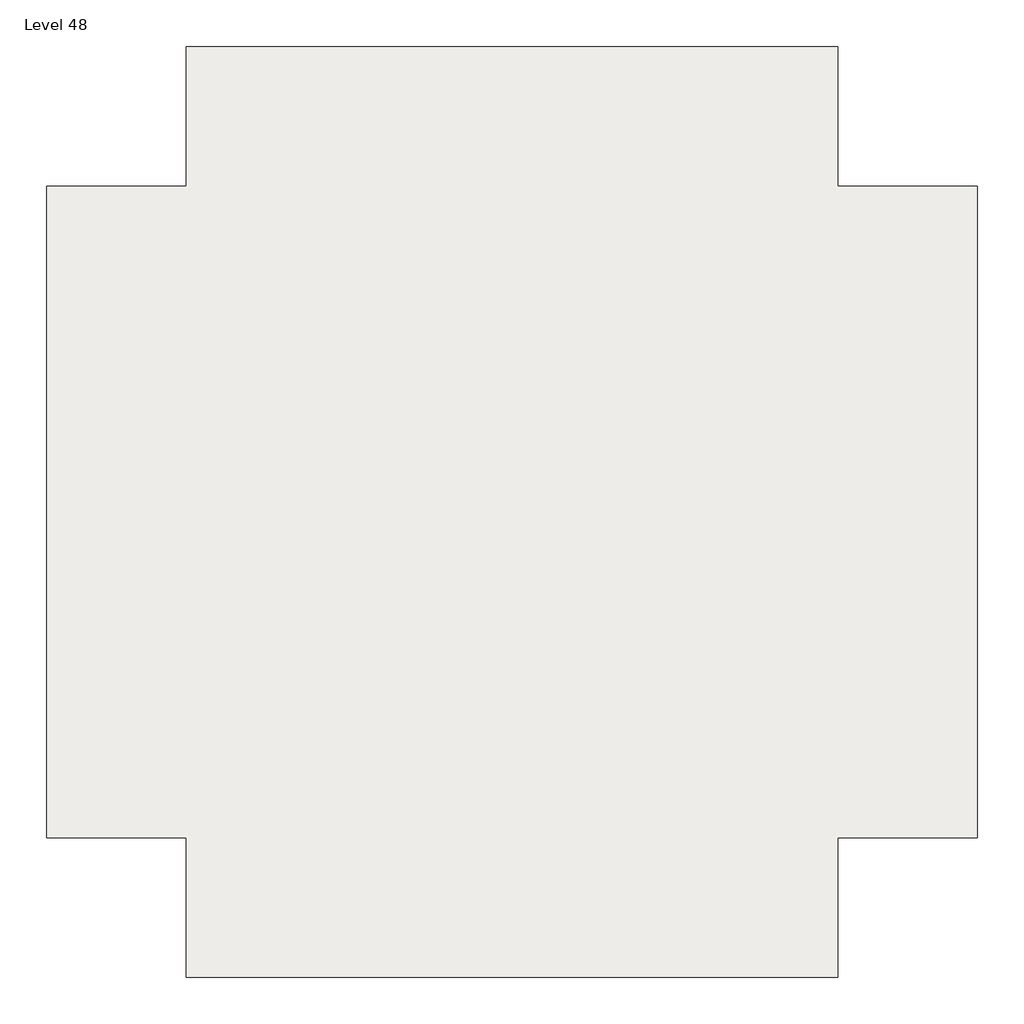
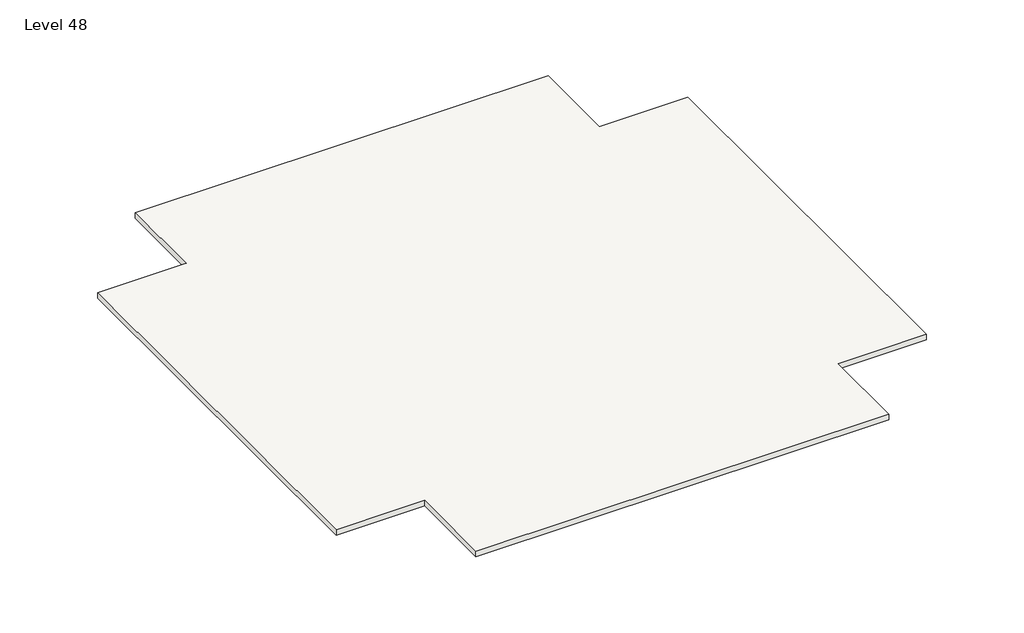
# One storey: 2 slabs.
"""IFC4 building model written with IfcOpenShell, lengths in millimetres."""

import ifcopenshell
import ifcopenshell.guid

model = None  # the IFC model being written
_history = None  # IfcOwnerHistory: only IFC2X3 demands one
_inside = {}  # id of a spatial element -> (the spatial element, [elements in it])
_under = {}  # id of a project, library or spatial element -> (it, [spatial elements below it])
_declared = {}  # id of a project -> (the project, [libraries it declares])
_typed = {}  # id of a type object -> (the type object, [elements of that type])
_made_of = {}  # id of a material, layer set ... -> (it, [elements and type objects made of it])


def new_model(schema):
    """Start an empty IFC model of exactly this schema.

    Asked for "IFC4X3", IfcOpenShell would pick the latest addendum, in which some entities
    have other attributes; the version numbers below select the first issue.
    IFC2X3 requires an IfcOwnerHistory on every rooted entity: one is made here for all.
    """
    global model, _history
    if schema == "IFC4X3":
        model = ifcopenshell.file(schema_version=(4, 3, 0, 0))
    else:
        model = ifcopenshell.file(schema=schema)
    _inside.clear()
    _under.clear()
    _declared.clear()
    _typed.clear()
    _made_of.clear()
    _history = None
    if model.schema == "IFC2X3":
        org = make("IfcOrganization", Name="unknown")
        user = make(
            "IfcPersonAndOrganization",
            ThePerson=make("IfcPerson", FamilyName="unknown"),
            TheOrganization=org,
        )
        app = make(
            "IfcApplication",
            ApplicationDeveloper=org,
            Version="unknown",
            ApplicationFullName="unknown",
            ApplicationIdentifier="unknown",
        )
        _history = make(
            "IfcOwnerHistory",
            OwningUser=user,
            OwningApplication=app,
            ChangeAction="ADDED",
            CreationDate=0,
        )
    return model


def make(cls, **values):
    """One entity of the class cls with the attributes given. An attribute that is None is left unset."""
    return model.create_entity(
        cls, **{name: value for name, value in values.items() if value is not None}
    )


def rooted(cls, **values):
    """An entity with a GlobalId (a new one), such as an element, a storey or a relation."""
    return make(cls, GlobalId=ifcopenshell.guid.new(), OwnerHistory=_history, **values)


def si_unit(unit_type, name, prefix=None):
    """IfcSIUnit, for example si_unit("LENGTHUNIT", "METRE", prefix="MILLI")."""
    return make("IfcSIUnit", UnitType=unit_type, Prefix=prefix, Name=name)


def assignment(units):
    """IfcUnitAssignment: the units of a project."""
    return None if units is None else make("IfcUnitAssignment", Units=units)


def point(xyz):
    """IfcCartesianPoint."""
    return None if xyz is None else make("IfcCartesianPoint", Coordinates=xyz)


def direction(xyz):
    """IfcDirection."""
    return None if xyz is None else make("IfcDirection", DirectionRatios=xyz)


def frame(location, z_axis=None, x_axis=None):
    """IfcAxis2Placement3D, a coordinate frame: its origin and axes. An axis left out is left unset."""
    return make(
        "IfcAxis2Placement3D",
        Location=point(location),
        Axis=direction(z_axis),
        RefDirection=direction(x_axis),
    )


def origin():
    """The frame at (0, 0, 0) with its axes left unset."""
    return frame((0.0, 0.0, 0.0))


def place(relative_to, where):
    """IfcLocalPlacement: puts the frame where relative to a parent placement (None: the world)."""
    return make(
        "IfcLocalPlacement", PlacementRelTo=relative_to, RelativePlacement=where
    )


def context(
    kind, dimensions, precision=None, world=None, true_north=None, identifier=None
):
    """IfcGeometricRepresentationContext, for example the 3D "Model" context."""
    return make(
        "IfcGeometricRepresentationContext",
        ContextIdentifier=identifier,
        ContextType=kind,
        CoordinateSpaceDimension=dimensions,
        Precision=precision,
        WorldCoordinateSystem=world,
        TrueNorth=true_north,
    )


def project(units=None, contexts=None):
    """IfcProject with its units and contexts."""
    return rooted(
        "IfcProject",
        Name="project",
        RepresentationContexts=contexts,
        UnitsInContext=assignment(units),
    )


def spatial(cls, under=None, at=None, **own):
    """A site, building, storey or space (cls), placed at a placement, below another one or the project."""
    s = rooted(cls, ObjectPlacement=at, **own)
    if under is not None:
        _under.setdefault(under.id(), (under, []))[1].append(s)
    return s


def polyline(points):
    """IfcPolyline through the points."""
    return make("IfcPolyline", Points=[point(p) for p in points])


def outline(outer, holes=None, kind="AREA"):
    """IfcArbitraryClosedProfileDef: a profile drawn as a closed curve; with holes, ...WithVoids."""
    if holes is None:
        return make("IfcArbitraryClosedProfileDef", ProfileType=kind, OuterCurve=outer)
    return make(
        "IfcArbitraryProfileDefWithVoids",
        ProfileType=kind,
        OuterCurve=outer,
        InnerCurves=holes,
    )


def extrude(swept, where, along, depth):
    """IfcExtrudedAreaSolid: the profile swept, set in the frame where, extruded along a direction by depth."""
    return make(
        "IfcExtrudedAreaSolid",
        SweptArea=swept,
        Position=where,
        ExtrudedDirection=direction(along),
        Depth=depth,
    )


def shape(context_of_items, identifier, shape_type, items):
    """IfcShapeRepresentation: the items that make up one representation, for example the "Body"."""
    return make(
        "IfcShapeRepresentation",
        ContextOfItems=context_of_items,
        RepresentationIdentifier=identifier,
        RepresentationType=shape_type,
        Items=items,
    )


def made_of(thing, what):
    """Note that an element or type object is made of a material, layer set ...; save() writes the relation."""
    if what is not None:
        _made_of.setdefault(what.id(), (what, []))[1].append(thing)
    return thing


def element(
    cls,
    number,
    at=None,
    inside=None,
    cuts=None,
    type_object=None,
    material=None,
    context=None,
    identifier="Body",
    shape_type=None,
    held_by="IfcProductDefinitionShape",
    body=None,
    shapes=None,
    **own,
):
    """One element of the class cls, such as IfcWall. Its Tag is "e" and its number.

    at: its placement. inside: the storey or other place that contains it. cuts: it is an
    opening in that element (IfcRelVoidsElement). A single representation is given by context,
    identifier, shape_type and body (its items); several are given by shapes. held_by: the class
    of the entity that holds the representations. save() writes the other relations.
    """
    e = rooted(cls, Tag="e%d" % number, ObjectPlacement=at, **own)
    if body is not None:
        shapes = [shape(context, identifier, shape_type, body)]
    if shapes is not None:
        e.Representation = make(held_by, Representations=shapes)
    if inside is not None:
        _inside.setdefault(inside.id(), (inside, []))[1].append(e)
    if cuts is not None:
        rooted(
            "IfcRelVoidsElement", RelatingBuildingElement=cuts, RelatedOpeningElement=e
        )
    if type_object is not None:
        _typed.setdefault(type_object.id(), (type_object, []))[1].append(e)
    return made_of(e, material)


def aggregate(whole, parts):
    """IfcRelAggregates: a whole, such as a stair, and the parts it consists of."""
    return rooted("IfcRelAggregates", RelatingObject=whole, RelatedObjects=parts)


def save(model, path):
    """Write the relations noted so far, then the file.

    IfcRelAggregates (storeys below a building ...), IfcRelContainedInSpatialStructure (elements
    in a storey), IfcRelDefinesByType, IfcRelAssociatesMaterial and IfcRelDeclares: one each for
    every whole, place, type object, material and project.
    """
    for whole, parts in _under.values():
        aggregate(whole, parts)
    for where, things in _inside.values():
        rooted(
            "IfcRelContainedInSpatialStructure",
            RelatedElements=things,
            RelatingStructure=where,
        )
    for kind, things in _typed.values():
        rooted("IfcRelDefinesByType", RelatedObjects=things, RelatingType=kind)
    for what, things in _made_of.values():
        rooted("IfcRelAssociatesMaterial", RelatedObjects=things, RelatingMaterial=what)
    for by, libraries in _declared.values():
        rooted("IfcRelDeclares", RelatingContext=by, RelatedDefinitions=libraries)
    model.write(path)


model = new_model("IFC4")

# Units and contexts
model_context = context("Model", 3, world=origin())
ifc_project = project(units=[si_unit("LENGTHUNIT", "METRE", prefix="MILLI")], contexts=[model_context])

# Site, building, storey
site = spatial("IfcSite", under=ifc_project)
building = spatial("IfcBuilding", under=site)
storey = spatial("IfcBuildingStorey", under=building, Name="Level 48", Elevation=143256.0)

# Slabs
placement = place(None, origin())
element("IfcSlab", 1, ObjectType="Generic - 12\"", at=placement, inside=storey, context=model_context, shape_type="SweptSolid", body=[
    extrude(outline(polyline([(-7150.3629456, 4479.6634547), (-7150.3629456, 9051.6634547), (14185.6370544, 9051.6634547), (14185.6370544, 4479.6634547), (18757.6370544, 4479.6634547), (18757.6370544, -16856.3365453), (14185.6370544, -16856.3365453), (14185.6370544, -21428.3365453), (-7150.3629456, -21428.3365453), (-7150.3629456, -16856.3365453), (-11722.3629456, -16856.3365453), (-11722.3629456, 4479.6634547), (-7150.3629456, 4479.6634547)])), frame((0.0, 0.0, 142951.2), z_axis=(0.0, 0.0, 1.0), x_axis=(1.0, 0.0, 0.0)), (0.0, 0.0, 1.0), 304.8),
])
element("IfcSlab", 2, ObjectType="Generic - 12\"", at=placement, inside=storey, context=model_context, shape_type="SweptSolid", body=[
    extrude(outline(polyline([(-7150.3629456, 4479.6634547), (-7150.3629456, 9051.6634547), (14185.6370544, 9051.6634547), (14185.6370544, 4479.6634547), (18757.6370544, 4479.6634547), (18757.6370544, -16856.3365453), (14185.6370544, -16856.3365453), (14185.6370544, -21428.3365453), (-7150.3629456, -21428.3365453), (-7150.3629456, -16856.3365453), (-11722.3629456, -16856.3365453), (-11722.3629456, 4479.6634547), (-7150.3629456, 4479.6634547)])), frame((0.0, 0.0, 142951.2), z_axis=(0.0, 0.0, 1.0), x_axis=(1.0, 0.0, 0.0)), (0.0, 0.0, 1.0), 304.8),
])

save(model, "model.ifc")
